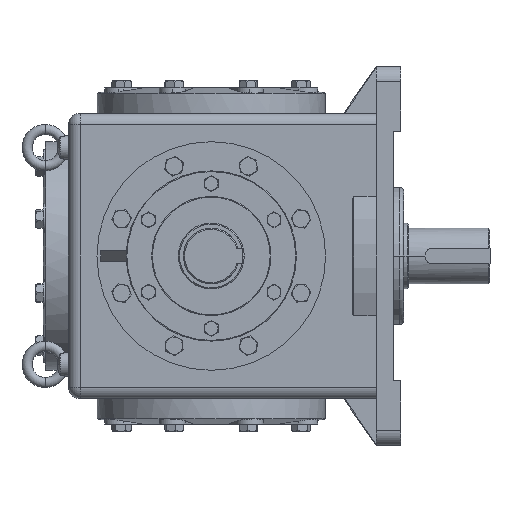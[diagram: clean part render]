
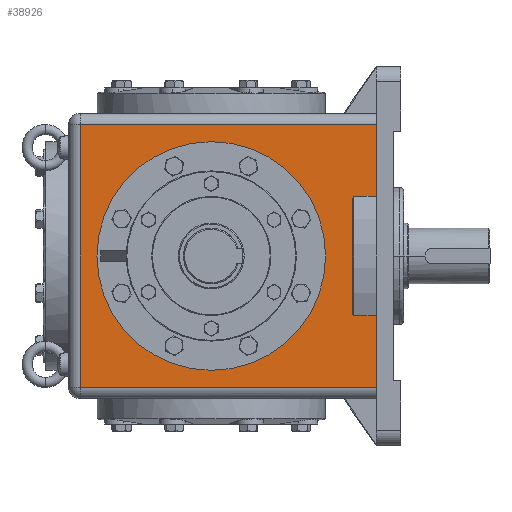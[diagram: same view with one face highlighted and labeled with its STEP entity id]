
A CAD part, left-side view. The second image highlights one B-rep face of the part: STEP entity #38926.
In plain terms, the highlighted planar face has unit normal (-1, 0, 0).
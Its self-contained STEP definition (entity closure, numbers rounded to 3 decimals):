
#925 = CARTESIAN_POINT ( 'NONE',  ( -184.45, -213., 77.319 ) ) ;
#1062 = EDGE_CURVE ( 'NONE', #33919, #38813, #27138, .T. ) ;
#1262 = ORIENTED_EDGE ( 'NONE', *, *, #12704, .F. ) ;
#1442 = CARTESIAN_POINT ( 'NONE',  ( -184.45, -183., 77.319 ) ) ;
#1647 = ORIENTED_EDGE ( 'NONE', *, *, #20274, .T. ) ;
#1726 = CARTESIAN_POINT ( 'NONE',  ( -184.45, -183.874, 77.302 ) ) ;
#2326 = CARTESIAN_POINT ( 'NONE',  ( -184.45, -183.233, 76.412 ) ) ;
#2615 = CARTESIAN_POINT ( 'NONE',  ( -184.45, -183., 74.694 ) ) ;
#2862 = DIRECTION ( 'NONE',  ( 0., 0., 1. ) ) ;
#2879 = CARTESIAN_POINT ( 'NONE',  ( -184.45, -183.233, -76.412 ) ) ;
#3127 = VERTEX_POINT ( 'NONE', #44360 ) ;
#3332 = VECTOR ( 'NONE', #31531, 1000. ) ;
#3419 = ORIENTED_EDGE ( 'NONE', *, *, #4502, .F. ) ;
#3474 = DIRECTION ( 'NONE',  ( 0., 1., 0. ) ) ;
#4340 = ORIENTED_EDGE ( 'NONE', *, *, #31753, .T. ) ;
#4502 = EDGE_CURVE ( 'NONE', #28133, #10924, #29632, .T. ) ;
#4809 = ORIENTED_EDGE ( 'NONE', *, *, #39566, .T. ) ;
#4977 = CARTESIAN_POINT ( 'NONE',  ( -184.45, -183., -74.694 ) ) ;
#5363 = CARTESIAN_POINT ( 'NONE',  ( -184.45, -183.067, 75.684 ) ) ;
#5662 = CARTESIAN_POINT ( 'NONE',  ( -184.45, -183.936, 77.319 ) ) ;
#5921 = EDGE_CURVE ( 'NONE', #22654, #12041, #9044, .T. ) ;
#6082 = CARTESIAN_POINT ( 'NONE',  ( -184.45, -184., -77.319 ) ) ;
#6205 = AXIS2_PLACEMENT_3D ( 'NONE', #31280, #41768, #34549 ) ;
#6234 = CARTESIAN_POINT ( 'NONE',  ( -184.45, -183.571, -77.082 ) ) ;
#6983 = DIRECTION ( 'NONE',  ( -1., 0., 0. ) ) ;
#7366 = EDGE_CURVE ( 'NONE', #8938, #30400, #43519, .T. ) ;
#7448 = CARTESIAN_POINT ( 'NONE',  ( -184.45, -213., 169.45 ) ) ;
#8938 = VERTEX_POINT ( 'NONE', #2615 ) ;
#9044 = LINE ( 'NONE', #23992, #26864 ) ;
#9541 = CARTESIAN_POINT ( 'NONE',  ( -184.45, -183., -74.694 ) ) ;
#9658 = DIRECTION ( 'NONE',  ( 0., -1., 0. ) ) ;
#9717 = EDGE_LOOP ( 'NONE', ( #3419, #1262 ) ) ;
#9995 = EDGE_CURVE ( 'NONE', #22932, #3127, #16404, .T. ) ;
#10289 = DIRECTION ( 'NONE',  ( 0., 0., -1. ) ) ;
#10924 = VERTEX_POINT ( 'NONE', #19249 ) ;
#12041 = VERTEX_POINT ( 'NONE', #38257 ) ;
#12100 = EDGE_CURVE ( 'NONE', #38813, #22932, #28196, .T. ) ;
#12295 = CARTESIAN_POINT ( 'NONE',  ( -184.45, -183., 74.944 ) ) ;
#12704 = EDGE_CURVE ( 'NONE', #10924, #28133, #22191, .T. ) ;
#13279 = AXIS2_PLACEMENT_3D ( 'NONE', #42946, #15622, #26168 ) ;
#13782 = CARTESIAN_POINT ( 'NONE',  ( -184.45, 169.45, -184.45 ) ) ;
#14199 = VECTOR ( 'NONE', #2862, 1000. ) ;
#14703 = CARTESIAN_POINT ( 'NONE',  ( -184.45, -184., 77.319 ) ) ;
#14710 = FACE_OUTER_BOUND ( 'NONE', #24891, .T. ) ;
#15500 = AXIS2_PLACEMENT_3D ( 'NONE', #16759, #6983, #10289 ) ;
#15610 = CARTESIAN_POINT ( 'NONE',  ( -184.45, -183.71, 77.211 ) ) ;
#15622 = DIRECTION ( 'NONE',  ( 1., 0., 0. ) ) ;
#15758 = CARTESIAN_POINT ( 'NONE',  ( -184.45, -183.109, 75.929 ) ) ;
#16052 = CARTESIAN_POINT ( 'NONE',  ( -184.45, -183.572, 77.083 ) ) ;
#16193 = CARTESIAN_POINT ( 'NONE',  ( -184.45, -183.013, 75.192 ) ) ;
#16404 = LINE ( 'NONE', #13782, #41679 ) ;
#16759 = CARTESIAN_POINT ( 'NONE',  ( -184.45, 0., 0. ) ) ;
#18478 = VECTOR ( 'NONE', #25879, 1000. ) ;
#19249 = CARTESIAN_POINT ( 'NONE',  ( -184.45, -147.66, 0. ) ) ;
#19523 = CARTESIAN_POINT ( 'NONE',  ( -184.45, -183.499, 76.978 ) ) ;
#20113 = FACE_BOUND ( 'NONE', #9717, .T. ) ;
#20266 = ORIENTED_EDGE ( 'NONE', *, *, #9995, .T. ) ;
#20274 = EDGE_CURVE ( 'NONE', #3127, #44028, #25065, .T. ) ;
#20773 = LINE ( 'NONE', #26012, #29430 ) ;
#22191 = CIRCLE ( 'NONE', #6205, 147.66 ) ;
#22356 = ORIENTED_EDGE ( 'NONE', *, *, #12100, .T. ) ;
#22397 = CARTESIAN_POINT ( 'NONE',  ( -184.45, -183., 74.694 ) ) ;
#22419 = CARTESIAN_POINT ( 'NONE',  ( -184.45, -213., -169.45 ) ) ;
#22654 = VERTEX_POINT ( 'NONE', #39837 ) ;
#22932 = VERTEX_POINT ( 'NONE', #42050 ) ;
#23341 = EDGE_CURVE ( 'NONE', #12041, #33957, #35143, .T. ) ;
#23526 = CARTESIAN_POINT ( 'NONE',  ( -184.45, -213., -184.45 ) ) ;
#23992 = CARTESIAN_POINT ( 'NONE',  ( -184.45, -183., -77.319 ) ) ;
#24022 = ORIENTED_EDGE ( 'NONE', *, *, #1062, .T. ) ;
#24531 = EDGE_CURVE ( 'NONE', #44028, #22654, #20773, .T. ) ;
#24891 = EDGE_LOOP ( 'NONE', ( #4340, #42520, #4809, #24022, #22356, #20266, #1647, #40967, #41166, #34009 ) ) ;
#25065 = LINE ( 'NONE', #43916, #33094 ) ;
#25562 = DIRECTION ( 'NONE',  ( 0., 0., 1. ) ) ;
#25859 = CARTESIAN_POINT ( 'NONE',  ( -184.45, -183.315, 76.653 ) ) ;
#25879 = DIRECTION ( 'NONE',  ( 0., -1., 0. ) ) ;
#26012 = CARTESIAN_POINT ( 'NONE',  ( -184.45, -213., -184.45 ) ) ;
#26168 = DIRECTION ( 'NONE',  ( 0., 0., -1. ) ) ;
#26437 = VECTOR ( 'NONE', #26846, 1000. ) ;
#26695 = CARTESIAN_POINT ( 'NONE',  ( -184.45, -183., 15. ) ) ;
#26846 = DIRECTION ( 'NONE',  ( 0., 0., 1. ) ) ;
#26864 = VECTOR ( 'NONE', #3474, 1000. ) ;
#27012 = CARTESIAN_POINT ( 'NONE',  ( -184.45, -183.109, -75.93 ) ) ;
#27138 = LINE ( 'NONE', #23526, #14199 ) ;
#27671 = LINE ( 'NONE', #1442, #18478 ) ;
#28133 = VERTEX_POINT ( 'NONE', #40659 ) ;
#28196 = LINE ( 'NONE', #7448, #3332 ) ;
#29430 = VECTOR ( 'NONE', #25562, 1000. ) ;
#29632 = CIRCLE ( 'NONE', #15500, 147.66 ) ;
#30173 = CARTESIAN_POINT ( 'NONE',  ( -184.45, -183.755, -77.253 ) ) ;
#30368 = PLANE ( 'NONE',  #13279 ) ;
#30400 = VERTEX_POINT ( 'NONE', #14703 ) ;
#30760 = CARTESIAN_POINT ( 'NONE',  ( -184.45, -183.013, -75.193 ) ) ;
#31280 = CARTESIAN_POINT ( 'NONE',  ( -184.45, 0., 0. ) ) ;
#31531 = DIRECTION ( 'NONE',  ( 0., 1., 0. ) ) ;
#31753 = EDGE_CURVE ( 'NONE', #33957, #8938, #33906, .T. ) ;
#33094 = VECTOR ( 'NONE', #9658, 1000. ) ;
#33184 = CARTESIAN_POINT ( 'NONE',  ( -184.45, -184., 77.319 ) ) ;
#33592 = CARTESIAN_POINT ( 'NONE',  ( -184.45, -183., -74.944 ) ) ;
#33742 = CARTESIAN_POINT ( 'NONE',  ( -184.45, -183.314, -76.651 ) ) ;
#33906 = LINE ( 'NONE', #26695, #26437 ) ;
#33919 = VERTEX_POINT ( 'NONE', #925 ) ;
#33957 = VERTEX_POINT ( 'NONE', #4977 ) ;
#34009 = ORIENTED_EDGE ( 'NONE', *, *, #23341, .T. ) ;
#34549 = DIRECTION ( 'NONE',  ( 0., 0., -1. ) ) ;
#35143 = B_SPLINE_CURVE_WITH_KNOTS ( 'NONE', 3,
 ( #6082, #44539, #30173, #6234, #43944, #33742, #2879, #27012, #40798, #30760, #33592, #9541 ),
 .UNSPECIFIED., .F., .F.,
 ( 4, 2, 2, 2, 2, 4 ),
 ( 0., 0., 0.001, 0.002, 0.002, 0.003 ),
 .UNSPECIFIED. ) ;
#35251 = DIRECTION ( 'NONE',  ( 0., 0., -1. ) ) ;
#36056 = CARTESIAN_POINT ( 'NONE',  ( -184.45, -213., 169.45 ) ) ;
#38257 = CARTESIAN_POINT ( 'NONE',  ( -184.45, -184., -77.319 ) ) ;
#38813 = VERTEX_POINT ( 'NONE', #36056 ) ;
#38926 = ADVANCED_FACE ( 'NONE', ( #14710, #20113 ), #30368, .F. ) ;
#39566 = EDGE_CURVE ( 'NONE', #30400, #33919, #27671, .T. ) ;
#39837 = CARTESIAN_POINT ( 'NONE',  ( -184.45, -213., -77.319 ) ) ;
#40659 = CARTESIAN_POINT ( 'NONE',  ( -184.45, 147.66, 0. ) ) ;
#40798 = CARTESIAN_POINT ( 'NONE',  ( -184.45, -183.068, -75.686 ) ) ;
#40967 = ORIENTED_EDGE ( 'NONE', *, *, #24531, .T. ) ;
#41166 = ORIENTED_EDGE ( 'NONE', *, *, #5921, .T. ) ;
#41679 = VECTOR ( 'NONE', #35251, 1000. ) ;
#41768 = DIRECTION ( 'NONE',  ( -1., 0., 0. ) ) ;
#42050 = CARTESIAN_POINT ( 'NONE',  ( -184.45, 169.45, 169.45 ) ) ;
#42520 = ORIENTED_EDGE ( 'NONE', *, *, #7366, .T. ) ;
#42946 = CARTESIAN_POINT ( 'NONE',  ( -184.45, -14.275, 15. ) ) ;
#43519 = B_SPLINE_CURVE_WITH_KNOTS ( 'NONE', 3,
 ( #22397, #12295, #16193, #5363, #15758, #2326, #25859, #19523, #16052, #15610, #43524, #1726, #5662, #33184 ),
 .UNSPECIFIED., .F., .F.,
 ( 4, 2, 2, 2, 2, 2, 4 ),
 ( 0., 0.001, 0.001, 0.002, 0.003, 0.003, 0.003 ),
 .UNSPECIFIED. ) ;
#43524 = CARTESIAN_POINT ( 'NONE',  ( -184.45, -183.762, 77.248 ) ) ;
#43916 = CARTESIAN_POINT ( 'NONE',  ( -184.45, -213., -169.45 ) ) ;
#43944 = CARTESIAN_POINT ( 'NONE',  ( -184.45, -183.498, -76.978 ) ) ;
#44028 = VERTEX_POINT ( 'NONE', #22419 ) ;
#44360 = CARTESIAN_POINT ( 'NONE',  ( -184.45, 169.45, -169.45 ) ) ;
#44539 = CARTESIAN_POINT ( 'NONE',  ( -184.45, -183.872, -77.319 ) ) ;
